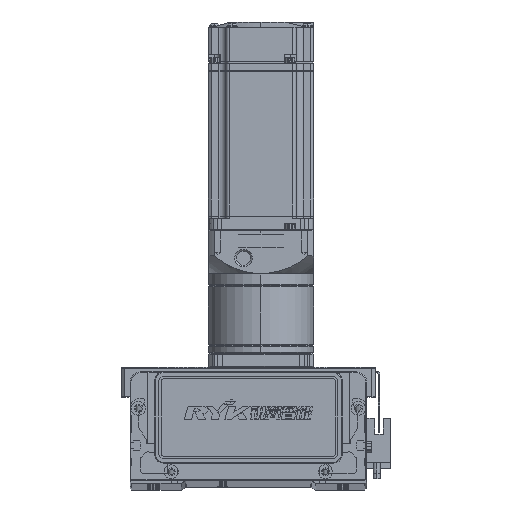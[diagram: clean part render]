
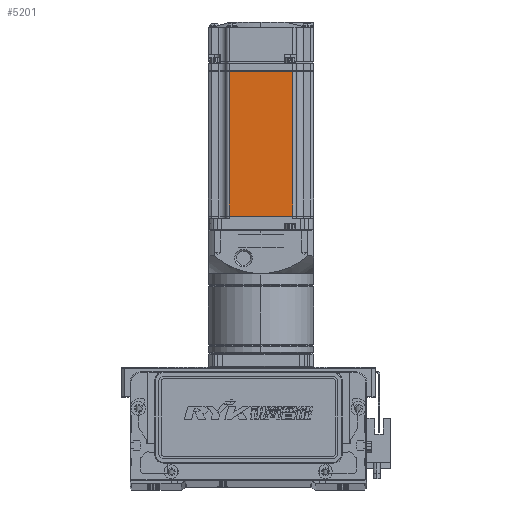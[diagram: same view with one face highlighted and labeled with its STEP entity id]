
A CAD part, top view. The second image highlights one B-rep face of the part: STEP entity #5201.
In plain terms, the highlighted planar face has unit normal (0, 0, 1).
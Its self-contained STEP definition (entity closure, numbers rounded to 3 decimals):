
#1360 = PLANE ( 'NONE',  #9011 ) ;
#4092 = DIRECTION ( 'NONE',  ( -1., 0., 0. ) ) ;
#5201 = ADVANCED_FACE ( 'NONE', ( #79987 ), #1360, .T. ) ;
#5537 = CARTESIAN_POINT ( 'NONE',  ( -90.45, -18., 30. ) ) ;
#5895 = ORIENTED_EDGE ( 'NONE', *, *, #42484, .T. ) ;
#9011 = AXIS2_PLACEMENT_3D ( 'NONE', #22018, #15335, #22311 ) ;
#11136 = CARTESIAN_POINT ( 'NONE',  ( -6.5, -18., 30. ) ) ;
#11776 = LINE ( 'NONE', #54040, #37969 ) ;
#15335 = DIRECTION ( 'NONE',  ( 0., 0., 1. ) ) ;
#15731 = CARTESIAN_POINT ( 'NONE',  ( -90.45, 0., 30. ) ) ;
#22018 = CARTESIAN_POINT ( 'NONE',  ( -6.5, -25., 30. ) ) ;
#22311 = DIRECTION ( 'NONE',  ( 1., 0., 0. ) ) ;
#22671 = VERTEX_POINT ( 'NONE', #35897 ) ;
#29857 = EDGE_CURVE ( 'NONE', #88816, #51797, #65447, .T. ) ;
#30100 = ORIENTED_EDGE ( 'NONE', *, *, #53910, .F. ) ;
#31144 = CARTESIAN_POINT ( 'NONE',  ( -90.45, 18., 30. ) ) ;
#32574 = VECTOR ( 'NONE', #78022, 1000. ) ;
#34713 = EDGE_LOOP ( 'NONE', ( #30100, #5895, #54022, #50053 ) ) ;
#35897 = CARTESIAN_POINT ( 'NONE',  ( -7.75, -18., 30. ) ) ;
#37969 = VECTOR ( 'NONE', #83085, 1000. ) ;
#42484 = EDGE_CURVE ( 'NONE', #73800, #88816, #42561, .T. ) ;
#42561 = LINE ( 'NONE', #81181, #46951 ) ;
#45863 = EDGE_CURVE ( 'NONE', #22671, #51797, #86613, .T. ) ;
#46951 = VECTOR ( 'NONE', #74169, 1000. ) ;
#50053 = ORIENTED_EDGE ( 'NONE', *, *, #45863, .F. ) ;
#51797 = VERTEX_POINT ( 'NONE', #5537 ) ;
#53910 = EDGE_CURVE ( 'NONE', #73800, #22671, #11776, .T. ) ;
#54022 = ORIENTED_EDGE ( 'NONE', *, *, #29857, .T. ) ;
#54040 = CARTESIAN_POINT ( 'NONE',  ( -7.75, 0., 30. ) ) ;
#65447 = LINE ( 'NONE', #15731, #32574 ) ;
#69200 = CARTESIAN_POINT ( 'NONE',  ( -7.75, 18., 30. ) ) ;
#73800 = VERTEX_POINT ( 'NONE', #69200 ) ;
#74169 = DIRECTION ( 'NONE',  ( -1., 0., 0. ) ) ;
#77853 = VECTOR ( 'NONE', #4092, 1000. ) ;
#78022 = DIRECTION ( 'NONE',  ( 0., -1., 0. ) ) ;
#79987 = FACE_OUTER_BOUND ( 'NONE', #34713, .T. ) ;
#81181 = CARTESIAN_POINT ( 'NONE',  ( -6.5, 18., 30. ) ) ;
#83085 = DIRECTION ( 'NONE',  ( 0., -1., 0. ) ) ;
#86613 = LINE ( 'NONE', #11136, #77853 ) ;
#88816 = VERTEX_POINT ( 'NONE', #31144 ) ;
